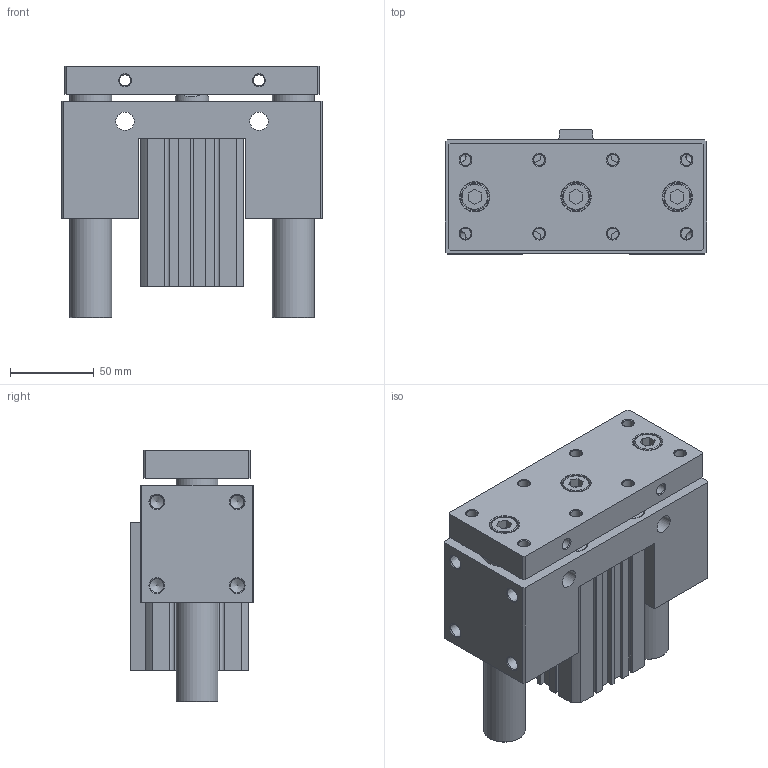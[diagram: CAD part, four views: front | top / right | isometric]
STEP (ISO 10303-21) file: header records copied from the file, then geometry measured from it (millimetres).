
FILE_DESCRIPTION((''),'2;1');
FILE_NAME('I:\3D電子目錄\氣缸\JCB\JCB\JCB50\JCB50x60.stp','2007-08-30T15:56:36',('Administrator'),(''),'Autodesk Inventor 11','Autodesk Inventor 11','');
FILE_SCHEMA(('AUTOMOTIVE_DESIGN { 1 0 10303 214 1 1 1 1 }'));
Length unit declared in the file: millimetre
Products named in the file (1): JCB50
Bounding box: 156 x 74 x 150.5 mm (x, y, z)
Volume: 1008508.2 mm3; surface area: 181692.8 mm2
Topology: 3 solids, 3 shells, 328 faces, 786 edges, 510 vertices
Faces by surface type: plane 190, cylinder 58, cone 45, bspline 31, torus 4
Full cylindrical faces by diameter (mm): 2.7 x2, 6.8 x4, 8.376 x4, 11 x8, 13 x4, 14 x4, 16 x3, 17.5 x3, 20 x1, 21 x1, 25 x2, 28 x2, 37 x1, 38 x1, 52 x4, 55 x2
Entity records: 9390 total; most frequent: CARTESIAN_POINT 2294, DIRECTION 1434, ORIENTED_EDGE 1264, EDGE_CURVE 632, EDGE_LOOP 536, AXIS2_PLACEMENT_3D 512, VERTEX_POINT 480, VECTOR 410
